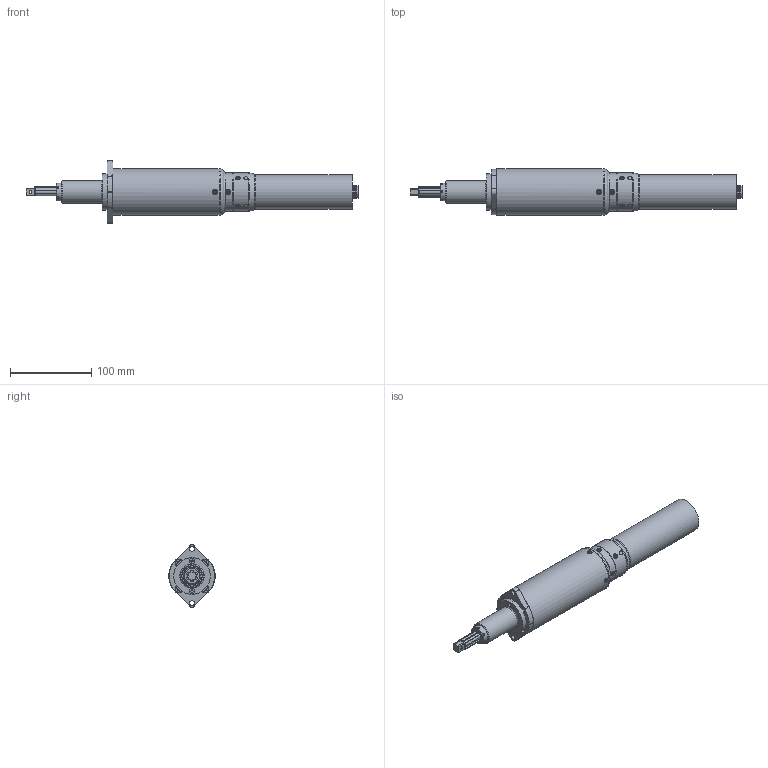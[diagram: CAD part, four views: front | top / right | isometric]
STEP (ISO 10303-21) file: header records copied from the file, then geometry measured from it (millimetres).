
FILE_DESCRIPTION (( 'STEP AP214' ), '1' );
FILE_NAME ('135135-FN KDS PL35CA-FN.STEP', '2023-03-03T08:23:08', ( '' ), ( '' ), 'SwSTEP 2.0', 'SolidWorks 2022', '' );
FILE_SCHEMA (( 'AUTOMOTIVE_DESIGN' ));
Length unit declared in the file: millimetre
Products named in the file (1): 135135-FN KDS PL35CA-FN
Bounding box: 408.75 x 57 x 77 mm (x, y, z)
Surface area: 76231.3 mm2 (no closed solid volume)
Topology: 0 solids, 37 shells, 368 faces, 1188 edges, 820 vertices
Faces by surface type: cylinder 184, plane 119, torus 33, cone 28, bspline 4
Full cylindrical faces by diameter (mm): 1 x10, 2 x2, 2.5 x4, 3 x1, 5.004 x4, 5.5 x12, 6.2 x2, 7 x2, 9 x4, 12 x1, 14.85 x2, 16 x1, 18.75 x1, 22 x1, 25 x1, 28 x1, 43 x1, 45 x1, 48 x2, 57 x2
Entity records: 18462 total; most frequent: CARTESIAN_POINT 4389, DIRECTION 2264, ORIENTED_EDGE 1618, EDGE_CURVE 1049, AXIS2_PLACEMENT_3D 925, VERTEX_POINT 792, EDGE_LOOP 570, CIRCLE 561
